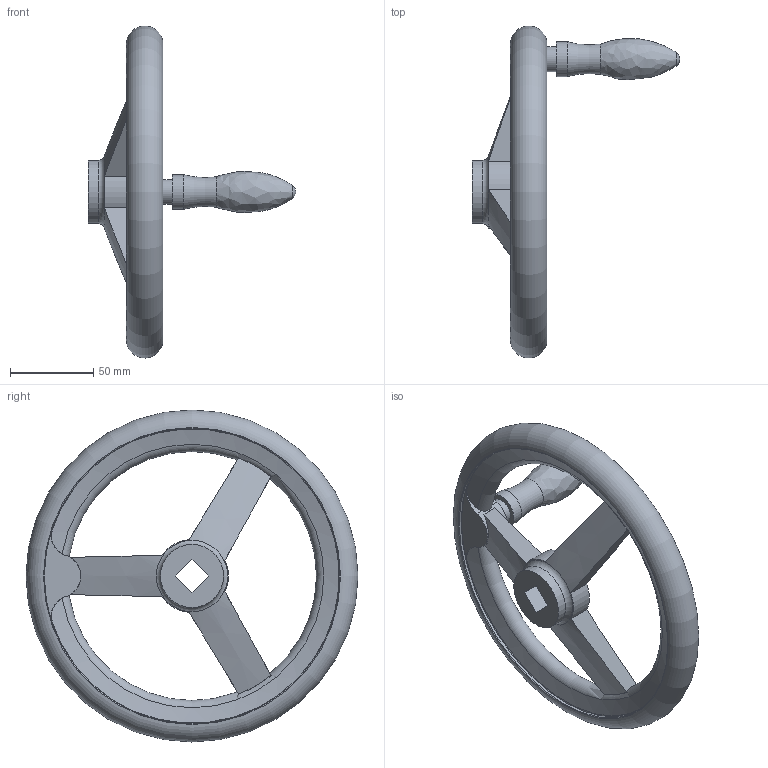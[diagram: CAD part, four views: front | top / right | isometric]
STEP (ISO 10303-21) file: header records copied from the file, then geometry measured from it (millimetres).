
FILE_DESCRIPTION( ( 'STEP AP203' ), '1' );
FILE_NAME( 'C:/Temp/Ganter_Step_05_03_2020/data/1_3/din_950/din_950_v/din_950_v_d/Handwheel DIN 950-AL-200-V14-D.stp', '2020-03-05T10:31:39', ( 'License CC BY-ND 4.0' ), ( 'CADENAS' ), ' ', 'PARTsolutions', ' ' );
FILE_SCHEMA( ( 'CONFIG_CONTROL_DESIGN' ) );
Length unit declared in the file: millimetre
Products named in the file (1): _Handwheel DIN 950-AL-200-V14-D
Bounding box: 125 x 199.99 x 199.99 mm (x, y, z)
Volume: 303076.2 mm3; surface area: 64241.1 mm2
Topology: 1 solids, 1 shells, 50 faces, 139 edges, 89 vertices
Faces by surface type: torus 15, plane 15, cylinder 14, cone 4, bspline 1, sphere 1
Full cylindrical faces by diameter (mm): 15 x1, 21 x1, 38 x2, 178 x2
Entity records: 1946 total; most frequent: CARTESIAN_POINT 771, ORIENTED_EDGE 228, DIRECTION 216, EDGE_CURVE 114, AXIS2_PLACEMENT_3D 96, VERTEX_POINT 84, EDGE_LOOP 74, FACE_OUTER_BOUND 65
